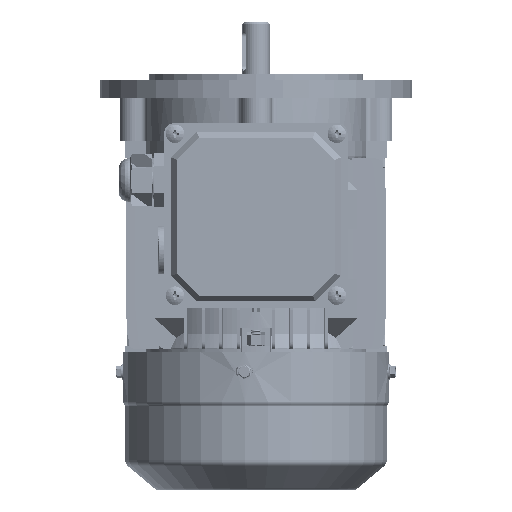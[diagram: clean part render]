
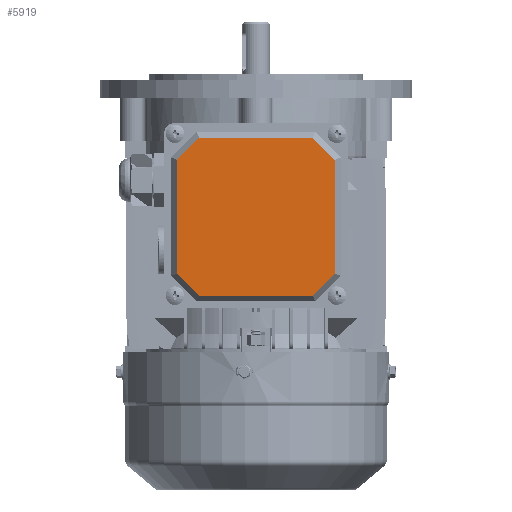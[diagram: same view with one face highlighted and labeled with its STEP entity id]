
A CAD part, left-side view. The second image highlights one B-rep face of the part: STEP entity #5919.
In plain terms, the highlighted planar face has unit normal (-1, 0, 0) as drawn and (0, 1, 0) by its records, which use the part's own axes.
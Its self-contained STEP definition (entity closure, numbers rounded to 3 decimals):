
#148 = ORIENTED_EDGE ( 'NONE', *, *, #10813, .T. ) ;
#3261 = EDGE_CURVE ( 'NONE', #67041, #46249, #32940, .T. ) ;
#4898 = ORIENTED_EDGE ( 'NONE', *, *, #41523, .T. ) ;
#5919 = ADVANCED_FACE ( 'NONE', ( #13610 ), #88126, .F. ) ;
#10813 = EDGE_CURVE ( 'NONE', #20435, #67041, #26176, .T. ) ;
#11879 = CARTESIAN_POINT ( 'NONE',  ( -29.15, 6., 40.5 ) ) ;
#11950 = CARTESIAN_POINT ( 'NONE',  ( 0., 6., 0. ) ) ;
#13610 = FACE_OUTER_BOUND ( 'NONE', #15641, .T. ) ;
#13879 = DIRECTION ( 'NONE',  ( 0.707, 0., 0.707 ) ) ;
#15638 = CARTESIAN_POINT ( 'NONE',  ( -34.825, 6., -34.825 ) ) ;
#15641 = EDGE_LOOP ( 'NONE', ( #25153, #55668, #37584, #62204, #4898, #148, #22611, #97002 ) ) ;
#17085 = DIRECTION ( 'NONE',  ( -0.707, 0., -0.707 ) ) ;
#17582 = EDGE_CURVE ( 'NONE', #107737, #112589, #55367, .T. ) ;
#18019 = EDGE_CURVE ( 'NONE', #50870, #110416, #46732, .T. ) ;
#20001 = LINE ( 'NONE', #138744, #129126 ) ;
#20435 = VERTEX_POINT ( 'NONE', #80328 ) ;
#22131 = CARTESIAN_POINT ( 'NONE',  ( -40.5, 6., 0. ) ) ;
#22611 = ORIENTED_EDGE ( 'NONE', *, *, #3261, .T. ) ;
#25153 = ORIENTED_EDGE ( 'NONE', *, *, #17582, .T. ) ;
#26149 = VECTOR ( 'NONE', #13879, 1000. ) ;
#26176 = LINE ( 'NONE', #22131, #109631 ) ;
#32940 = LINE ( 'NONE', #35702, #26149 ) ;
#33802 = DIRECTION ( 'NONE',  ( 0., 0., -1. ) ) ;
#35702 = CARTESIAN_POINT ( 'NONE',  ( -34.825, 6., 34.825 ) ) ;
#35843 = VECTOR ( 'NONE', #52996, 1000. ) ;
#37584 = ORIENTED_EDGE ( 'NONE', *, *, #137902, .T. ) ;
#41523 = EDGE_CURVE ( 'NONE', #110416, #20435, #54567, .T. ) ;
#46249 = VERTEX_POINT ( 'NONE', #11879 ) ;
#46732 = LINE ( 'NONE', #110699, #68963 ) ;
#47869 = CARTESIAN_POINT ( 'NONE',  ( -29.15, 6., -40.5 ) ) ;
#49216 = AXIS2_PLACEMENT_3D ( 'NONE', #11950, #99059, #33802 ) ;
#50870 = VERTEX_POINT ( 'NONE', #110376 ) ;
#52996 = DIRECTION ( 'NONE',  ( 0., 0., -1. ) ) ;
#54567 = LINE ( 'NONE', #15638, #83617 ) ;
#55367 = LINE ( 'NONE', #135166, #84403 ) ;
#55668 = ORIENTED_EDGE ( 'NONE', *, *, #77695, .T. ) ;
#58810 = DIRECTION ( 'NONE',  ( 0.707, 0., -0.707 ) ) ;
#61270 = VECTOR ( 'NONE', #17085, 1000. ) ;
#62204 = ORIENTED_EDGE ( 'NONE', *, *, #18019, .T. ) ;
#67041 = VERTEX_POINT ( 'NONE', #75060 ) ;
#67389 = DIRECTION ( 'NONE',  ( -1., 0., 0. ) ) ;
#68963 = VECTOR ( 'NONE', #67389, 1000. ) ;
#73446 = DIRECTION ( 'NONE',  ( 1., 0., 0. ) ) ;
#75060 = CARTESIAN_POINT ( 'NONE',  ( -40.5, 6., 29.15 ) ) ;
#77695 = EDGE_CURVE ( 'NONE', #112589, #114439, #93877, .T. ) ;
#80328 = CARTESIAN_POINT ( 'NONE',  ( -40.5, 6., -29.15 ) ) ;
#81355 = CARTESIAN_POINT ( 'NONE',  ( 40.5, 6., -29.15 ) ) ;
#82305 = CARTESIAN_POINT ( 'NONE',  ( 34.825, 6., -34.825 ) ) ;
#83617 = VECTOR ( 'NONE', #113693, 1000. ) ;
#84403 = VECTOR ( 'NONE', #58810, 1000. ) ;
#88126 = PLANE ( 'NONE',  #49216 ) ;
#90241 = LINE ( 'NONE', #82305, #61270 ) ;
#93877 = LINE ( 'NONE', #129343, #35843 ) ;
#95725 = CARTESIAN_POINT ( 'NONE',  ( 40.5, 6., 29.15 ) ) ;
#97002 = ORIENTED_EDGE ( 'NONE', *, *, #139190, .T. ) ;
#98346 = DIRECTION ( 'NONE',  ( 0., 0., 1. ) ) ;
#99059 = DIRECTION ( 'NONE',  ( 0., -1., 0. ) ) ;
#107737 = VERTEX_POINT ( 'NONE', #119939 ) ;
#109631 = VECTOR ( 'NONE', #98346, 1000. ) ;
#110376 = CARTESIAN_POINT ( 'NONE',  ( 29.15, 6., -40.5 ) ) ;
#110416 = VERTEX_POINT ( 'NONE', #47869 ) ;
#110699 = CARTESIAN_POINT ( 'NONE',  ( 0., 6., -40.5 ) ) ;
#112589 = VERTEX_POINT ( 'NONE', #95725 ) ;
#113693 = DIRECTION ( 'NONE',  ( -0.707, 0., 0.707 ) ) ;
#114439 = VERTEX_POINT ( 'NONE', #81355 ) ;
#119939 = CARTESIAN_POINT ( 'NONE',  ( 29.15, 6., 40.5 ) ) ;
#129126 = VECTOR ( 'NONE', #73446, 1000. ) ;
#129343 = CARTESIAN_POINT ( 'NONE',  ( 40.5, 6., 0. ) ) ;
#135166 = CARTESIAN_POINT ( 'NONE',  ( 34.825, 6., 34.825 ) ) ;
#137902 = EDGE_CURVE ( 'NONE', #114439, #50870, #90241, .T. ) ;
#138744 = CARTESIAN_POINT ( 'NONE',  ( 0., 6., 40.5 ) ) ;
#139190 = EDGE_CURVE ( 'NONE', #46249, #107737, #20001, .T. ) ;
